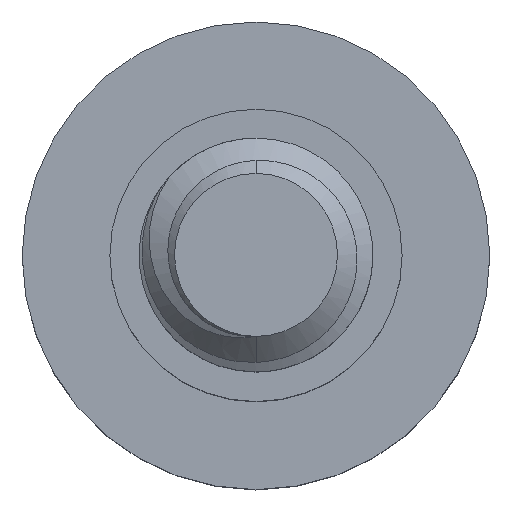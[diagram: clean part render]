
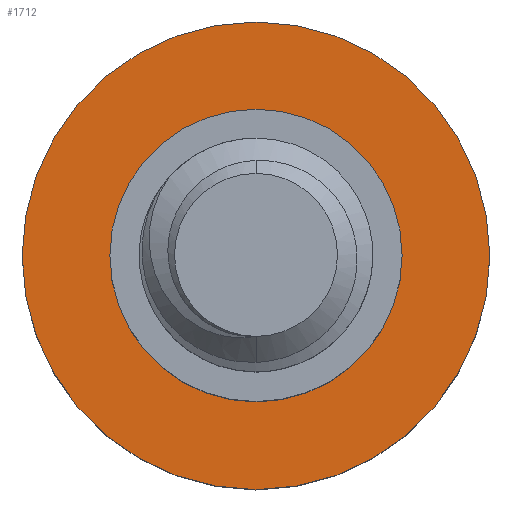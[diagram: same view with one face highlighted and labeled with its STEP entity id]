
A CAD part, top view. The second image highlights one B-rep face of the part: STEP entity #1712.
In plain terms, the highlighted planar face has unit normal (0, 0, 1).
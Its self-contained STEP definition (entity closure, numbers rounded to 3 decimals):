
#68 = DIRECTION ( 'NONE',  ( -1., 0., 0. ) ) ;
#146 = PLANE ( 'NONE',  #2134 ) ;
#157 = VERTEX_POINT ( 'NONE', #2066 ) ;
#183 = FACE_BOUND ( 'NONE', #1711, .T. ) ;
#232 = CARTESIAN_POINT ( 'NONE',  ( 0., 0., -4. ) ) ;
#328 = DIRECTION ( 'NONE',  ( -1., 0., 0. ) ) ;
#352 = CARTESIAN_POINT ( 'NONE',  ( 2.5, 0., -4. ) ) ;
#383 = EDGE_CURVE ( 'NONE', #1833, #1025, #2059, .T. ) ;
#443 = AXIS2_PLACEMENT_3D ( 'NONE', #1198, #701, #1702 ) ;
#480 = CIRCLE ( 'NONE', #800, 2.5 ) ;
#586 = DIRECTION ( 'NONE',  ( -1., 0., 0. ) ) ;
#636 = EDGE_LOOP ( 'NONE', ( #2126, #1525 ) ) ;
#651 = CARTESIAN_POINT ( 'NONE',  ( 0., 0., -4. ) ) ;
#701 = DIRECTION ( 'NONE',  ( 0., 0., -1. ) ) ;
#707 = DIRECTION ( 'NONE',  ( 0., 0., -1. ) ) ;
#772 = CARTESIAN_POINT ( 'NONE',  ( 4., 0., -4. ) ) ;
#795 = CIRCLE ( 'NONE', #1282, 4. ) ;
#800 = AXIS2_PLACEMENT_3D ( 'NONE', #1853, #1185, #328 ) ;
#822 = EDGE_CURVE ( 'NONE', #1025, #1833, #795, .T. ) ;
#865 = DIRECTION ( 'NONE',  ( 0., 0., -1. ) ) ;
#1003 = ORIENTED_EDGE ( 'NONE', *, *, #2133, .T. ) ;
#1008 = AXIS2_PLACEMENT_3D ( 'NONE', #232, #707, #586 ) ;
#1025 = VERTEX_POINT ( 'NONE', #772 ) ;
#1150 = CARTESIAN_POINT ( 'NONE',  ( 0., 0., -4. ) ) ;
#1185 = DIRECTION ( 'NONE',  ( 0., 0., -1. ) ) ;
#1198 = CARTESIAN_POINT ( 'NONE',  ( 0., 0., -4. ) ) ;
#1273 = VERTEX_POINT ( 'NONE', #352 ) ;
#1282 = AXIS2_PLACEMENT_3D ( 'NONE', #1150, #1320, #68 ) ;
#1320 = DIRECTION ( 'NONE',  ( 0., 0., -1. ) ) ;
#1367 = FACE_OUTER_BOUND ( 'NONE', #636, .T. ) ;
#1525 = ORIENTED_EDGE ( 'NONE', *, *, #383, .F. ) ;
#1638 = CIRCLE ( 'NONE', #443, 2.5 ) ;
#1649 = DIRECTION ( 'NONE',  ( -1., 0., 0. ) ) ;
#1702 = DIRECTION ( 'NONE',  ( -1., 0., 0. ) ) ;
#1711 = EDGE_LOOP ( 'NONE', ( #1003, #2020 ) ) ;
#1712 = ADVANCED_FACE ( 'NONE', ( #183, #1367 ), #146, .F. ) ;
#1833 = VERTEX_POINT ( 'NONE', #1941 ) ;
#1853 = CARTESIAN_POINT ( 'NONE',  ( 0., 0., -4. ) ) ;
#1941 = CARTESIAN_POINT ( 'NONE',  ( -4., 0., -4. ) ) ;
#2020 = ORIENTED_EDGE ( 'NONE', *, *, #2105, .T. ) ;
#2059 = CIRCLE ( 'NONE', #1008, 4. ) ;
#2066 = CARTESIAN_POINT ( 'NONE',  ( -2.5, 0., -4. ) ) ;
#2105 = EDGE_CURVE ( 'NONE', #1273, #157, #480, .T. ) ;
#2126 = ORIENTED_EDGE ( 'NONE', *, *, #822, .F. ) ;
#2133 = EDGE_CURVE ( 'NONE', #157, #1273, #1638, .T. ) ;
#2134 = AXIS2_PLACEMENT_3D ( 'NONE', #651, #865, #1649 ) ;
